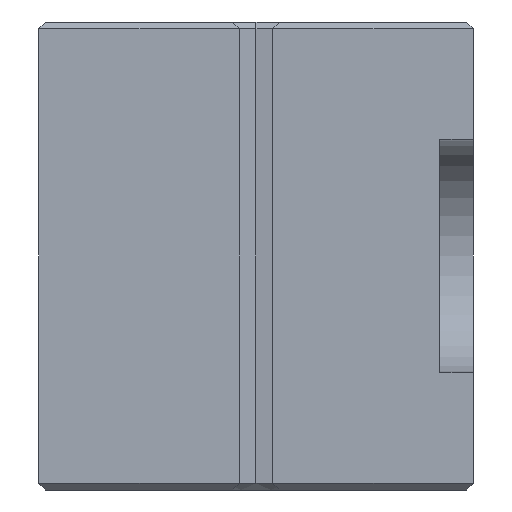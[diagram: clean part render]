
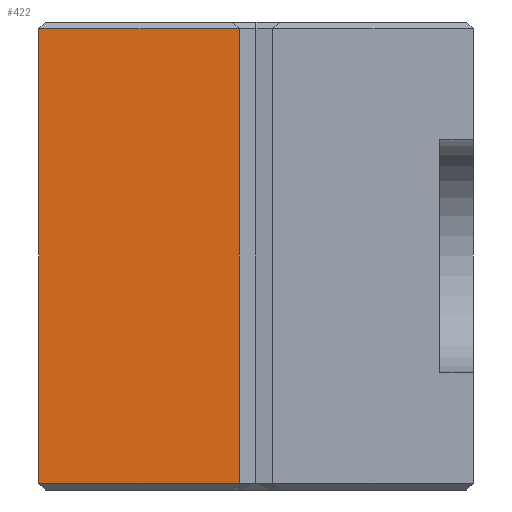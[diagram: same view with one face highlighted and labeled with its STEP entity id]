
A CAD part, left-side view. The second image highlights one B-rep face of the part: STEP entity #422.
In plain terms, the highlighted planar face has unit normal (-1, 0, 0).
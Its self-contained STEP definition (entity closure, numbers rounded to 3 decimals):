
#353 = ORIENTED_EDGE ( 'NONE', *, *, #354, .T. ) ;
#354 = EDGE_CURVE ( 'NONE', #355, #356, #1048, .T. ) ;
#355 = VERTEX_POINT ( 'NONE', #1039 ) ;
#356 = VERTEX_POINT ( 'NONE', #1038 ) ;
#357 = VERTEX_POINT ( 'NONE', #1037 ) ;
#358 = ORIENTED_EDGE ( 'NONE', *, *, #359, .T. ) ;
#359 = EDGE_CURVE ( 'NONE', #357, #355, #1036, .T. ) ;
#360 = EDGE_CURVE ( 'NONE', #1429, #357, #1032, .T. ) ;
#364 = ORIENTED_EDGE ( 'NONE', *, *, #360, .T. ) ;
#422 = ADVANCED_FACE ( 'NONE', ( #1127 ), #1125, .F. ) ;
#423 = EDGE_LOOP ( 'NONE', ( #353, #425, #364, #358 ) ) ;
#425 = ORIENTED_EDGE ( 'NONE', *, *, #426, .T. ) ;
#426 = EDGE_CURVE ( 'NONE', #356, #1429, #1182, .T. ) ;
#628 = DIRECTION ( 'NONE',  ( 1., 0., 0. ) ) ;
#1029 = DIRECTION ( 'NONE',  ( 0., 0., 1. ) ) ;
#1030 = VECTOR ( 'NONE', #1029, 1000. ) ;
#1031 = CARTESIAN_POINT ( 'NONE',  ( 0., 14., -14. ) ) ;
#1032 = LINE ( 'NONE', #1031, #1030 ) ;
#1033 = DIRECTION ( 'NONE',  ( 0., 1., 0. ) ) ;
#1034 = VECTOR ( 'NONE', #1033, 1000. ) ;
#1035 = CARTESIAN_POINT ( 'NONE',  ( 0., 0., 13.6 ) ) ;
#1036 = LINE ( 'NONE', #1035, #1034 ) ;
#1037 = CARTESIAN_POINT ( 'NONE',  ( 0., 14., 13.6 ) ) ;
#1038 = CARTESIAN_POINT ( 'NONE',  ( 0., 26., -13.6 ) ) ;
#1039 = CARTESIAN_POINT ( 'NONE',  ( 0., 26., 13.6 ) ) ;
#1040 = DIRECTION ( 'NONE',  ( 0., 0., -1. ) ) ;
#1041 = VECTOR ( 'NONE', #1040, 1000. ) ;
#1042 = CARTESIAN_POINT ( 'NONE',  ( 0., 26., 14. ) ) ;
#1048 = LINE ( 'NONE', #1042, #1041 ) ;
#1123 = CARTESIAN_POINT ( 'NONE',  ( 0., 0., 14. ) ) ;
#1124 = AXIS2_PLACEMENT_3D ( 'NONE', #1123, #628, #1432 ) ;
#1125 = PLANE ( 'NONE',  #1124 ) ;
#1127 = FACE_OUTER_BOUND ( 'NONE', #423, .T. ) ;
#1179 = DIRECTION ( 'NONE',  ( 0., -1., 0. ) ) ;
#1180 = VECTOR ( 'NONE', #1179, 1000. ) ;
#1181 = CARTESIAN_POINT ( 'NONE',  ( 0., 14., -13.6 ) ) ;
#1182 = LINE ( 'NONE', #1181, #1180 ) ;
#1233 = CARTESIAN_POINT ( 'NONE',  ( 0., 14., -13.6 ) ) ;
#1429 = VERTEX_POINT ( 'NONE', #1233 ) ;
#1432 = DIRECTION ( 'NONE',  ( 0., 0., -1. ) ) ;
